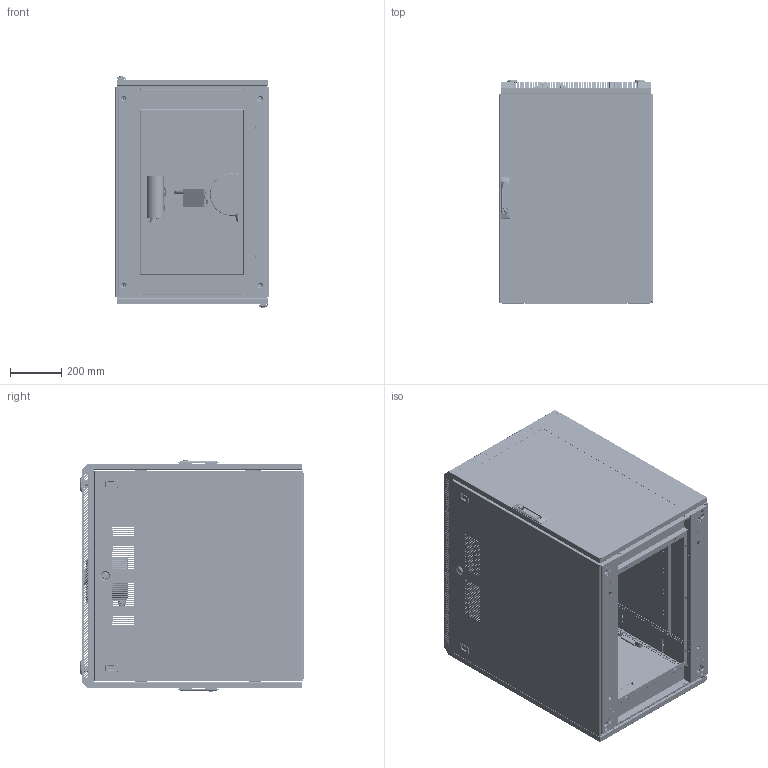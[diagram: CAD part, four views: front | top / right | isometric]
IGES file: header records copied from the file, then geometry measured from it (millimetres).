
Start section: SolidWorks IGES file using analytic representation for surfaces
Global section: file name: C:\Users\laaou\Desktop\CAD3d\Definitiv\Assieme_17U_Defin.IGS; native system: SolidWorks 2014; preprocessor: SolidWorks 2014; author: laaou; date: 170906.171719; units: millimetre
Bounding box: 599.3 x 867.7 x 900.2 mm (x, y, z)
Surface area: 12102390.2 mm2 (no closed solid volume)
Topology: 0 solids, 0 shells, 15248 faces, 179057 edges, 178857 vertices
Faces by surface type: bspline 9343, revolution 5905
